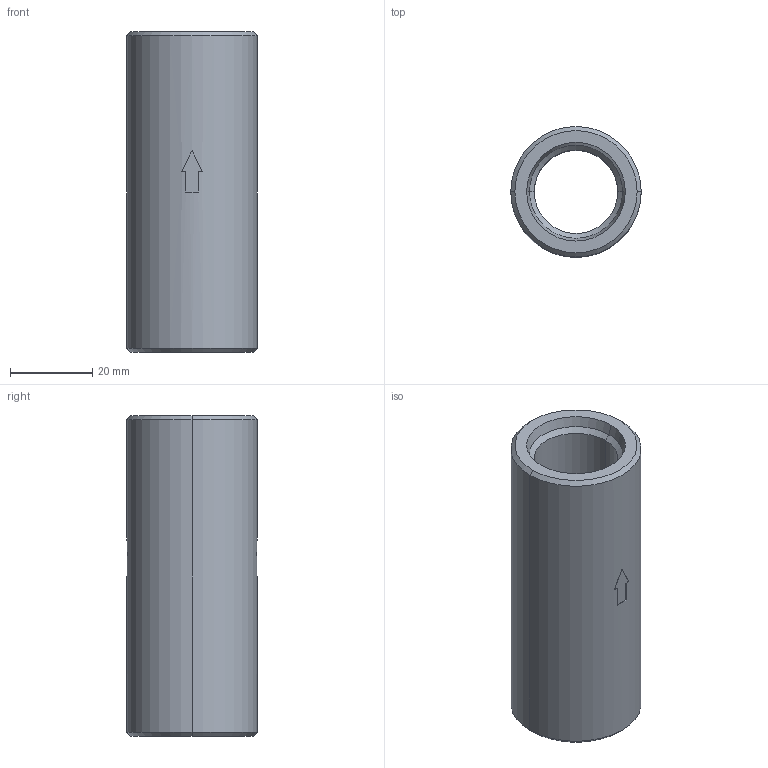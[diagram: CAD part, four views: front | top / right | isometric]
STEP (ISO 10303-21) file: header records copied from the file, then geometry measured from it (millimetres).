
FILE_DESCRIPTION (( 'STEP AP214' ), '1' );
FILE_NAME ('VRF78001.STEP', '2025-06-03T00:49:44', ( '' ), ( '' ), 'SwSTEP 2.0', 'SolidWorks 2023', '' );
FILE_SCHEMA (( 'AUTOMOTIVE_DESIGN' ));
Length unit declared in the file: millimetre
Products named in the file (1): VRF78001
Bounding box: 31.75 x 31.75 x 78 mm (x, y, z)
Surface area: 10936.8 mm2 (no closed solid volume)
Topology: 0 solids, 1 shells, 36 faces, 84 edges, 52 vertices
Faces by surface type: plane 18, cone 12, cylinder 6
Entity records: 1034 total; most frequent: CARTESIAN_POINT 185, DIRECTION 184, ORIENTED_EDGE 164, EDGE_CURVE 84, AXIS2_PLACEMENT_3D 67, VERTEX_POINT 52, VECTOR 50, LINE 50
